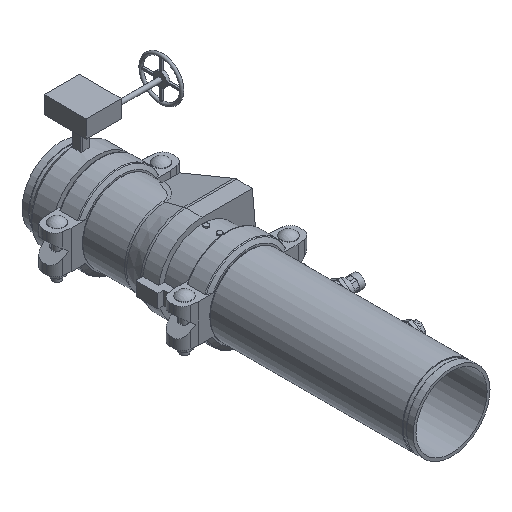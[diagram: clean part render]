
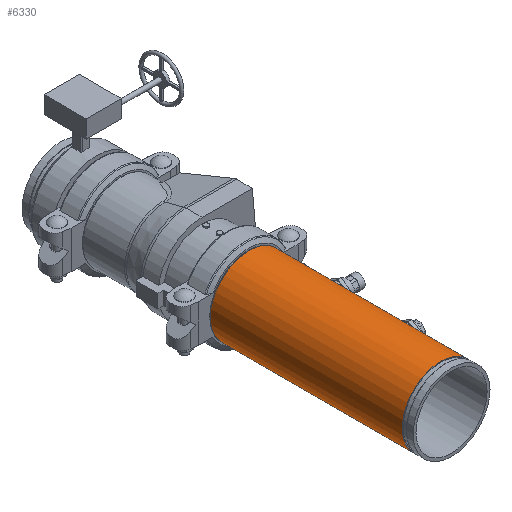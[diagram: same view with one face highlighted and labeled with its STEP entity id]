
A CAD part, isometric view. The second image highlights one B-rep face of the part: STEP entity #6330.
In plain terms, the highlighted cylindrical face has radius 109.537 mm (diameter 219.075 mm), a full revolution.
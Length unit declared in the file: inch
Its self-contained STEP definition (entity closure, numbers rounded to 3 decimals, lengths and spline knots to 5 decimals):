
#168=LINE('',#9544,#649);
#649=VECTOR('',#7601,4.3125);
#1130=CYLINDRICAL_SURFACE('',#6847,4.3125);
#1305=FACE_OUTER_BOUND('',#1655,.T.);
#1655=EDGE_LOOP('',(#3948,#3949,#3950,#3951,#3952,#3953));
#2067=CIRCLE('',#6845,4.3125);
#2068=CIRCLE('',#6846,4.3125);
#2069=CIRCLE('',#6848,4.3125);
#2070=CIRCLE('',#6849,4.3125);
#2415=VERTEX_POINT('',#9535);
#2416=VERTEX_POINT('',#9536);
#2417=VERTEX_POINT('',#9540);
#2418=VERTEX_POINT('',#9541);
#3028=EDGE_CURVE('',#2415,#2416,#2067,.T.);
#3029=EDGE_CURVE('',#2416,#2415,#2068,.T.);
#3030=EDGE_CURVE('',#2417,#2418,#2069,.T.);
#3031=EDGE_CURVE('',#2418,#2417,#2070,.T.);
#3032=EDGE_CURVE('',#2418,#2416,#168,.T.);
#3948=ORIENTED_EDGE('',*,*,#3030,.F.);
#3949=ORIENTED_EDGE('',*,*,#3031,.F.);
#3950=ORIENTED_EDGE('',*,*,#3032,.T.);
#3951=ORIENTED_EDGE('',*,*,#3029,.T.);
#3952=ORIENTED_EDGE('',*,*,#3028,.T.);
#3953=ORIENTED_EDGE('',*,*,#3032,.F.);
#6330=ADVANCED_FACE('',(#1305),#1130,.T.);
#6845=AXIS2_PLACEMENT_3D('',#9537,#7591,#7592);
#6846=AXIS2_PLACEMENT_3D('',#9538,#7593,#7594);
#6847=AXIS2_PLACEMENT_3D('',#9539,#7595,#7596);
#6848=AXIS2_PLACEMENT_3D('',#9542,#7597,#7598);
#6849=AXIS2_PLACEMENT_3D('',#9543,#7599,#7600);
#7591=DIRECTION('center_axis',(1.,0.,0.));
#7592=DIRECTION('ref_axis',(0.,0.,-1.));
#7593=DIRECTION('center_axis',(1.,0.,0.));
#7594=DIRECTION('ref_axis',(0.,0.,-1.));
#7595=DIRECTION('center_axis',(1.,0.,0.));
#7596=DIRECTION('ref_axis',(0.,1.,0.));
#7597=DIRECTION('center_axis',(1.,0.,0.));
#7598=DIRECTION('ref_axis',(0.,0.,-1.));
#7599=DIRECTION('center_axis',(1.,0.,0.));
#7600=DIRECTION('ref_axis',(0.,0.,-1.));
#7601=DIRECTION('',(-1.,0.,0.));
#9535=CARTESIAN_POINT('',(-10.776,4.3125,0.));
#9536=CARTESIAN_POINT('',(-10.776,-4.3125,0.));
#9537=CARTESIAN_POINT('Origin',(-10.776,0.,0.));
#9538=CARTESIAN_POINT('Origin',(-10.776,0.,0.));
#9539=CARTESIAN_POINT('Origin',(0.,0.,0.));
#9540=CARTESIAN_POINT('',(10.776,4.3125,0.));
#9541=CARTESIAN_POINT('',(10.776,-4.3125,0.));
#9542=CARTESIAN_POINT('Origin',(10.776,0.,0.));
#9543=CARTESIAN_POINT('Origin',(10.776,0.,0.));
#9544=CARTESIAN_POINT('',(0.,-4.3125,0.));
